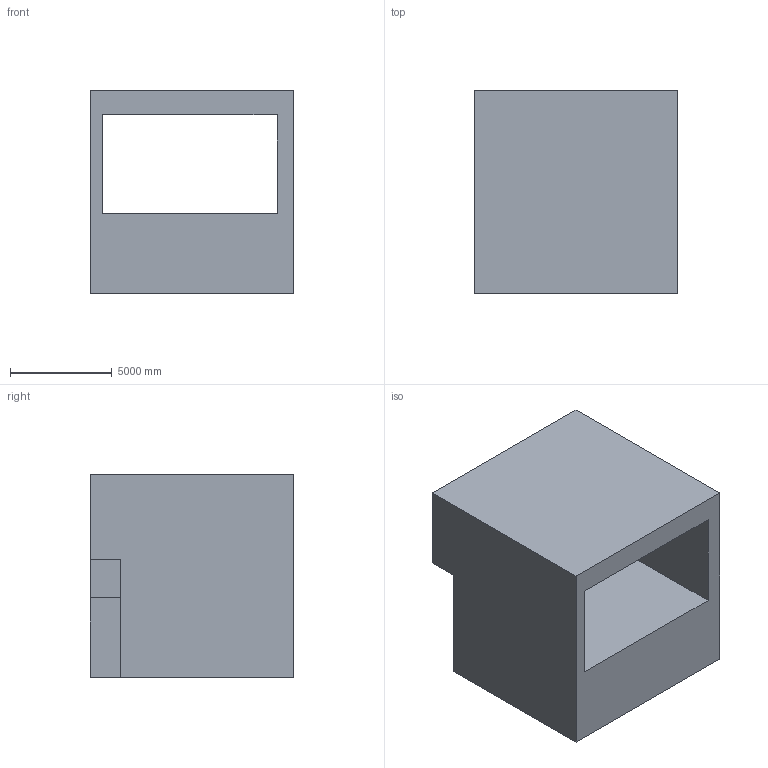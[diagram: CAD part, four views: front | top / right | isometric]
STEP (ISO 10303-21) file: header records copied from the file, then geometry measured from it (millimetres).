
FILE_DESCRIPTION (( 'STEP AP203' ), '1' );
FILE_NAME ('23.STEP', '2022-07-28T13:25:51', ( 'user' ), ( '' ), 'SwSTEP 2.0', 'SolidWorks 2021', '' );
FILE_SCHEMA (( 'CONFIG_CONTROL_DESIGN' ));
Length unit declared in the file: centimetre
Products named in the file (1): 23
Bounding box: 10000 x 10000 x 10000 mm (x, y, z)
Volume: 561641106538.1 mm3; surface area: 772857854.4 mm2
Topology: 1 solids, 1 shells, 13 faces, 36 edges, 24 vertices
Faces by surface type: plane 13
Entity records: 491 total; most frequent: CARTESIAN_POINT 74, ORIENTED_EDGE 72, DIRECTION 64, EDGE_CURVE 36, LINE 36, VECTOR 36, VERTEX_POINT 24, EDGE_LOOP 14
